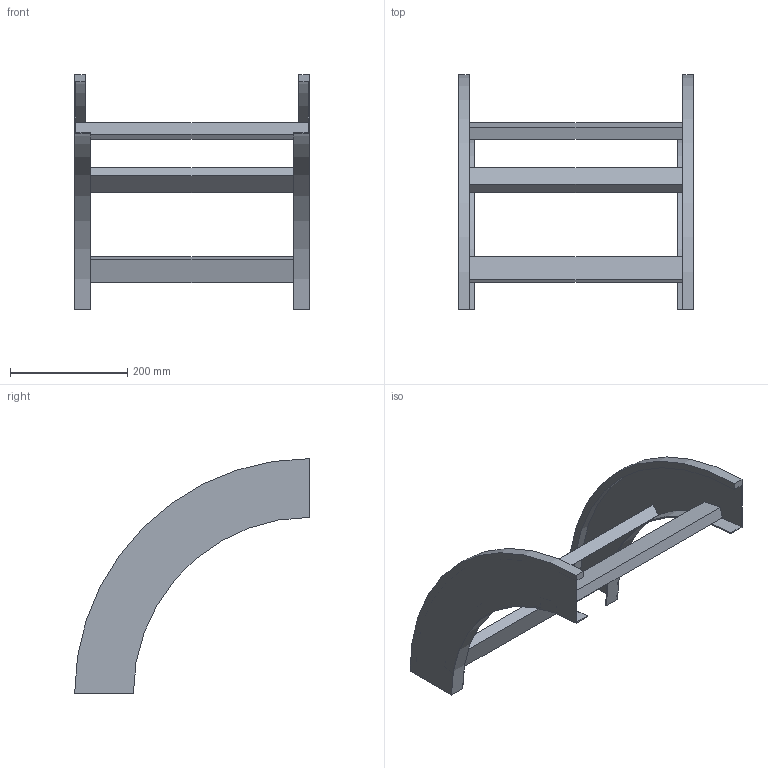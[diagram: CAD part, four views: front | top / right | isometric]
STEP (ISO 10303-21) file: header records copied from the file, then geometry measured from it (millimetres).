
FILE_DESCRIPTION (( 'STEP AP214' ), '1' );
FILE_NAME ('B2_33B3D400.step', '2025-02-21T15:02:28', ( '' ), ( '' ), 'SwSTEP 2.0', 'SolidWorks 2023', '' );
FILE_SCHEMA (( 'AUTOMOTIVE_DESIGN' ));
Length unit declared in the file: millimetre
Products named in the file (3): TRAVERSINO_400; B2_33B3D400; B2_LONGH.DISCESA_90°_H100_R300
Assembly tree (5 placements, depth 2):
  B2_33B3D400
    B2_LONGH.DISCESA_90°_H100_R300  x2
    TRAVERSINO_400  x3
Bounding box: 400 x 400 x 400 mm (x, y, z)
Volume: 1467127.7 mm3; surface area: 461575.9 mm2
Topology: 5 solids, 5 shells, 38 faces, 84 edges, 56 vertices
Faces by surface type: plane 30, cylinder 8
Entity records: 560 total; most frequent: DIRECTION 92, CARTESIAN_POINT 84, ORIENTED_EDGE 72, EDGE_CURVE 36, AXIS2_PLACEMENT_3D 32, VECTOR 28, LINE 28, VERTEX_POINT 24
